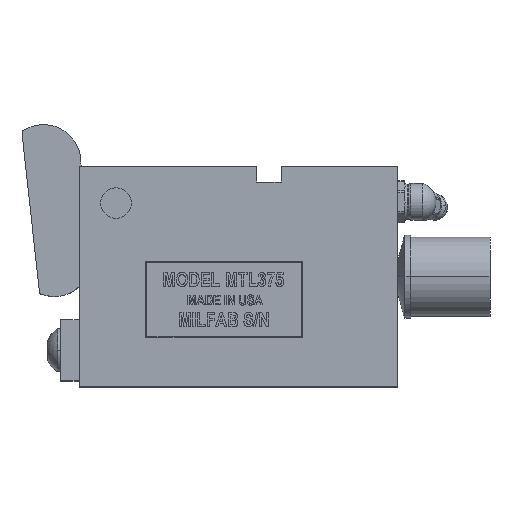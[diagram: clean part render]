
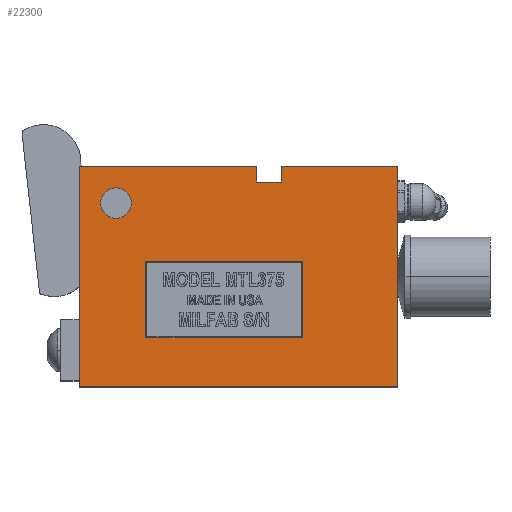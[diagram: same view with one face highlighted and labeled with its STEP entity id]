
A CAD part, top view. The second image highlights one B-rep face of the part: STEP entity #22300.
In plain terms, the highlighted planar face has unit normal (0, 0, 1).
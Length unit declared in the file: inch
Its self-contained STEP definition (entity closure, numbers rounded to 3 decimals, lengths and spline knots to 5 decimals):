
#534 = LINE ( 'NONE', #581, #580 ) ;
#547 = DIRECTION ( 'NONE',  ( 0., -1., 0. ) ) ;
#565 = VECTOR ( 'NONE', #547, 39.37008 ) ;
#566 = CARTESIAN_POINT ( 'NONE',  ( 4.49951, 5.84404, 0. ) ) ;
#579 = DIRECTION ( 'NONE',  ( 0., 1., 0. ) ) ;
#580 = VECTOR ( 'NONE', #579, 39.37008 ) ;
#581 = CARTESIAN_POINT ( 'NONE',  ( 5.68951, 3.75404, 0. ) ) ;
#610 = CARTESIAN_POINT ( 'NONE',  ( 4.49951, 5.84404, 0. ) ) ;
#612 = LINE ( 'NONE', #566, #565 ) ;
#613 = CARTESIAN_POINT ( 'NONE',  ( 5.68951, 3.75404, 0. ) ) ;
#615 = DIRECTION ( 'NONE',  ( -1., 0., 0. ) ) ;
#616 = CARTESIAN_POINT ( 'NONE',  ( 4.24951, 5.84404, 0. ) ) ;
#617 = LINE ( 'NONE', #616, #751 ) ;
#641 = CARTESIAN_POINT ( 'NONE',  ( 4.24951, 5.84404, 0. ) ) ;
#642 = DIRECTION ( 'NONE',  ( 0., 1., 0. ) ) ;
#643 = VECTOR ( 'NONE', #642, 39.37008 ) ;
#644 = CARTESIAN_POINT ( 'NONE',  ( 4.24951, 6.00404, 0. ) ) ;
#645 = LINE ( 'NONE', #644, #643 ) ;
#751 = VECTOR ( 'NONE', #615, 39.37008 ) ;
#788 = CIRCLE ( 'NONE', #1039, 0.15625 ) ;
#789 = CARTESIAN_POINT ( 'NONE',  ( 4.71951, 5.03404, 0. ) ) ;
#790 = CARTESIAN_POINT ( 'NONE',  ( 3.11951, 5.03404, 0. ) ) ;
#804 = LINE ( 'NONE', #807, #806 ) ;
#805 = DIRECTION ( 'NONE',  ( -1., 0., 0. ) ) ;
#806 = VECTOR ( 'NONE', #805, 39.37008 ) ;
#807 = CARTESIAN_POINT ( 'NONE',  ( 3.11951, 5.03404, 0. ) ) ;
#829 = LINE ( 'NONE', #845, #838 ) ;
#837 = DIRECTION ( 'NONE',  ( 0., 1., 0. ) ) ;
#838 = VECTOR ( 'NONE', #837, 39.37008 ) ;
#845 = CARTESIAN_POINT ( 'NONE',  ( 4.71951, 4.25404, 0. ) ) ;
#846 = DIRECTION ( 'NONE',  ( 0., -1., 0. ) ) ;
#847 = VECTOR ( 'NONE', #846, 39.37008 ) ;
#848 = CARTESIAN_POINT ( 'NONE',  ( 3.11951, 4.25404, 0. ) ) ;
#849 = LINE ( 'NONE', #848, #847 ) ;
#872 = CARTESIAN_POINT ( 'NONE',  ( 4.71951, 4.25404, 0. ) ) ;
#873 = CARTESIAN_POINT ( 'NONE',  ( 3.11951, 4.25404, 0. ) ) ;
#875 = DIRECTION ( 'NONE',  ( 1., 0., 0. ) ) ;
#876 = VECTOR ( 'NONE', #875, 39.37008 ) ;
#878 = CARTESIAN_POINT ( 'NONE',  ( 3.11951, 4.25404, 0. ) ) ;
#908 = LINE ( 'NONE', #878, #876 ) ;
#961 = CARTESIAN_POINT ( 'NONE',  ( 2.43951, 3.75404, 0. ) ) ;
#985 = DIRECTION ( 'NONE',  ( 0., -1., 0. ) ) ;
#986 = VECTOR ( 'NONE', #985, 39.37008 ) ;
#1010 = LINE ( 'NONE', #961, #986 ) ;
#1039 = AXIS2_PLACEMENT_3D ( 'NONE', #1057, #1070, #1055 ) ;
#1055 = DIRECTION ( 'NONE',  ( 1., 0., 0. ) ) ;
#1057 = CARTESIAN_POINT ( 'NONE',  ( 2.81451, 5.62904, 0. ) ) ;
#1070 = DIRECTION ( 'NONE',  ( 0., 0., 1. ) ) ;
#1445 = CARTESIAN_POINT ( 'NONE',  ( 2.43951, 3.75404, 0. ) ) ;
#1446 = DIRECTION ( 'NONE',  ( 1., 0., 0. ) ) ;
#1448 = VECTOR ( 'NONE', #1446, 39.37008 ) ;
#1450 = CARTESIAN_POINT ( 'NONE',  ( 2.43951, 3.75404, 0. ) ) ;
#1451 = LINE ( 'NONE', #1450, #1448 ) ;
#1504 = DIRECTION ( 'NONE',  ( -1., 0., 0. ) ) ;
#1505 = DIRECTION ( 'NONE',  ( 0., 0., -1. ) ) ;
#1506 = CARTESIAN_POINT ( 'NONE',  ( 4.24951, 6.00404, 0. ) ) ;
#1507 = AXIS2_PLACEMENT_3D ( 'NONE', #1506, #1505, #1504 ) ;
#1510 = PLANE ( 'NONE',  #1507 ) ;
#1511 = FACE_OUTER_BOUND ( 'NONE', #22365, .T. ) ;
#1513 = FACE_BOUND ( 'NONE', #22257, .T. ) ;
#1521 = FACE_BOUND ( 'NONE', #22082, .T. ) ;
#10210 = CARTESIAN_POINT ( 'NONE',  ( 4.49951, 6.00404, 0. ) ) ;
#10211 = CARTESIAN_POINT ( 'NONE',  ( 5.68951, 6.00404, 0. ) ) ;
#10488 = CARTESIAN_POINT ( 'NONE',  ( 2.81451, 5.62904, 0. ) ) ;
#10489 = AXIS2_PLACEMENT_3D ( 'NONE', #10488, #10504, #10503 ) ;
#10490 = CIRCLE ( 'NONE', #10489, 0.15625 ) ;
#10491 = CARTESIAN_POINT ( 'NONE',  ( 2.65826, 5.62904, 0. ) ) ;
#10502 = CARTESIAN_POINT ( 'NONE',  ( 2.97076, 5.62904, 0. ) ) ;
#10503 = DIRECTION ( 'NONE',  ( 1., 0., 0. ) ) ;
#10504 = DIRECTION ( 'NONE',  ( 0., 0., 1. ) ) ;
#10519 = LINE ( 'NONE', #10581, #10580 ) ;
#10579 = DIRECTION ( 'NONE',  ( -1., 0., 0. ) ) ;
#10580 = VECTOR ( 'NONE', #10579, 39.37008 ) ;
#10581 = CARTESIAN_POINT ( 'NONE',  ( 4.49951, 6.00404, 0. ) ) ;
#15607 = VERTEX_POINT ( 'NONE', #10211 ) ;
#15608 = VERTEX_POINT ( 'NONE', #10210 ) ;
#15672 = VERTEX_POINT ( 'NONE', #10491 ) ;
#15674 = EDGE_CURVE ( 'NONE', #15672, #15675, #10490, .T. ) ;
#15675 = VERTEX_POINT ( 'NONE', #10502 ) ;
#15680 = EDGE_CURVE ( 'NONE', #15607, #15608, #10519, .T. ) ;
#17019 = EDGE_CURVE ( 'NONE', #17080, #17043, #19668, .T. ) ;
#17043 = VERTEX_POINT ( 'NONE', #20069 ) ;
#17080 = VERTEX_POINT ( 'NONE', #20026 ) ;
#19665 = DIRECTION ( 'NONE',  ( -1., 0., 0. ) ) ;
#19666 = VECTOR ( 'NONE', #19665, 39.37008 ) ;
#19667 = CARTESIAN_POINT ( 'NONE',  ( 2.43951, 6.00404, 0. ) ) ;
#19668 = LINE ( 'NONE', #19667, #19666 ) ;
#20026 = CARTESIAN_POINT ( 'NONE',  ( 4.24951, 6.00404, 0. ) ) ;
#20069 = CARTESIAN_POINT ( 'NONE',  ( 2.43951, 6.00404, 0. ) ) ;
#21731 = EDGE_CURVE ( 'NONE', #21889, #21780, #617, .T. ) ;
#21779 = EDGE_CURVE ( 'NONE', #21780, #17080, #645, .T. ) ;
#21780 = VERTEX_POINT ( 'NONE', #641 ) ;
#21863 = EDGE_CURVE ( 'NONE', #21865, #15607, #534, .T. ) ;
#21865 = VERTEX_POINT ( 'NONE', #613 ) ;
#21880 = EDGE_CURVE ( 'NONE', #15608, #21889, #612, .T. ) ;
#21889 = VERTEX_POINT ( 'NONE', #610 ) ;
#22082 = EDGE_LOOP ( 'NONE', ( #22084, #22108, #22140, #22185 ) ) ;
#22084 = ORIENTED_EDGE ( 'NONE', *, *, #22087, .F. ) ;
#22087 = EDGE_CURVE ( 'NONE', #22106, #22107, #908, .T. ) ;
#22106 = VERTEX_POINT ( 'NONE', #873 ) ;
#22107 = VERTEX_POINT ( 'NONE', #872 ) ;
#22108 = ORIENTED_EDGE ( 'NONE', *, *, #22109, .F. ) ;
#22109 = EDGE_CURVE ( 'NONE', #22139, #22106, #849, .T. ) ;
#22139 = VERTEX_POINT ( 'NONE', #790 ) ;
#22140 = ORIENTED_EDGE ( 'NONE', *, *, #22184, .F. ) ;
#22142 = VERTEX_POINT ( 'NONE', #789 ) ;
#22184 = EDGE_CURVE ( 'NONE', #22142, #22139, #804, .T. ) ;
#22185 = ORIENTED_EDGE ( 'NONE', *, *, #22187, .F. ) ;
#22187 = EDGE_CURVE ( 'NONE', #22107, #22142, #829, .T. ) ;
#22236 = EDGE_CURVE ( 'NONE', #17043, #22328, #1010, .T. ) ;
#22257 = EDGE_LOOP ( 'NONE', ( #22258, #22376 ) ) ;
#22258 = ORIENTED_EDGE ( 'NONE', *, *, #22259, .F. ) ;
#22259 = EDGE_CURVE ( 'NONE', #15675, #15672, #788, .T. ) ;
#22300 = ADVANCED_FACE ( 'NONE', ( #1521, #1513, #1511 ), #1510, .F. ) ;
#22303 = ORIENTED_EDGE ( 'NONE', *, *, #17019, .T. ) ;
#22310 = ORIENTED_EDGE ( 'NONE', *, *, #21880, .T. ) ;
#22311 = ORIENTED_EDGE ( 'NONE', *, *, #22236, .T. ) ;
#22312 = ORIENTED_EDGE ( 'NONE', *, *, #21731, .T. ) ;
#22327 = EDGE_CURVE ( 'NONE', #22328, #21865, #1451, .T. ) ;
#22328 = VERTEX_POINT ( 'NONE', #1445 ) ;
#22354 = ORIENTED_EDGE ( 'NONE', *, *, #21779, .T. ) ;
#22360 = ORIENTED_EDGE ( 'NONE', *, *, #15680, .T. ) ;
#22365 = EDGE_LOOP ( 'NONE', ( #22303, #22311, #22366, #22367, #22360, #22310, #22312, #22354 ) ) ;
#22366 = ORIENTED_EDGE ( 'NONE', *, *, #22327, .T. ) ;
#22367 = ORIENTED_EDGE ( 'NONE', *, *, #21863, .T. ) ;
#22376 = ORIENTED_EDGE ( 'NONE', *, *, #15674, .F. ) ;
